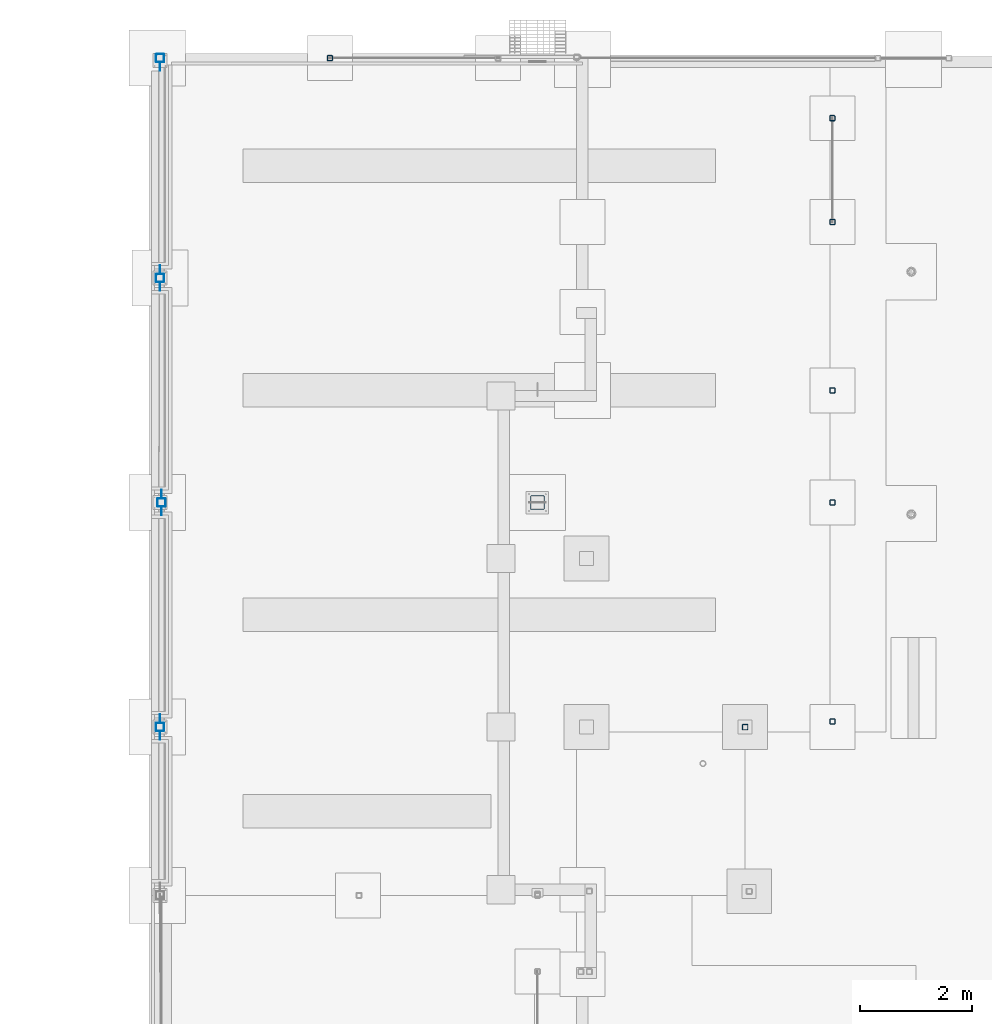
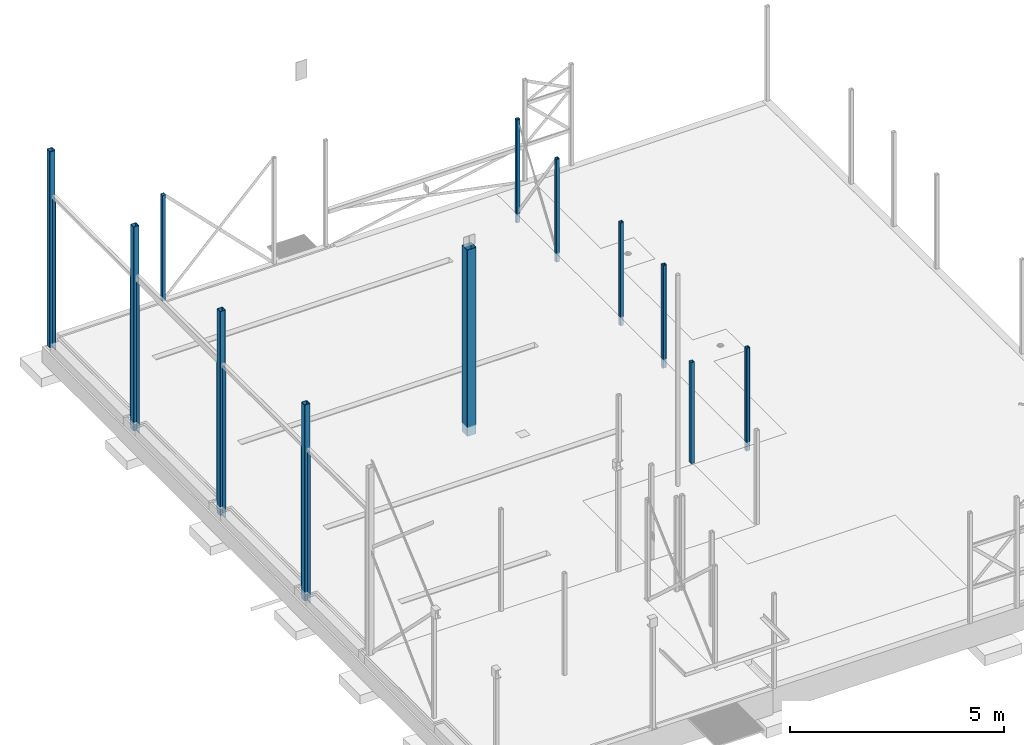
# One storey, part 4 of 18: 12 columns.
"""IFC2X3 building model written with IfcOpenShell, lengths in millimetres."""

from ifc_helpers import new_model, entity, si_unit, converted_unit, derived_unit, direction, frame, frame_2d, origin, origin_2d_with_axis, place, context, subcontext, project, spatial, polyline, circle_curve, parameter, trimmed, segment, composite_curve, rectangle, outline, extrude, source, transform, mapped, material, type_object, type_shapes, element, save


model = new_model("IFC2X3")

# Units and contexts
model_context = context("Model", 3, precision=0.01, world=origin(), true_north=direction((6.12303176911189e-17, 1.0)))
body_context = subcontext(model_context, "Body", "Model", "MODEL_VIEW")
ifc_project = project(units=[si_unit("LENGTHUNIT", "METRE", prefix="MILLI"), si_unit("AREAUNIT", "SQUARE_METRE"), si_unit("VOLUMEUNIT", "CUBIC_METRE"), converted_unit("PLANEANGLEUNIT", "DEGREE", entity("IfcRatioMeasure", 0.0174532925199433), si_unit("PLANEANGLEUNIT", "RADIAN"), dimensions=[0, 0, 0, 0, 0, 0, 0]), si_unit("MASSUNIT", "GRAM", prefix="KILO"), derived_unit("MASSDENSITYUNIT", [(si_unit("MASSUNIT", "GRAM", prefix="KILO"), 1), (si_unit("LENGTHUNIT", "METRE"), -3)]), si_unit("TIMEUNIT", "SECOND"), si_unit("FREQUENCYUNIT", "HERTZ"), si_unit("THERMODYNAMICTEMPERATUREUNIT", "DEGREE_CELSIUS"), derived_unit("THERMALTRANSMITTANCEUNIT", [(si_unit("MASSUNIT", "GRAM", prefix="KILO"), 1), (si_unit("THERMODYNAMICTEMPERATUREUNIT", "KELVIN"), -1), (si_unit("TIMEUNIT", "SECOND"), -3)]), derived_unit("VOLUMETRICFLOWRATEUNIT", [(si_unit("LENGTHUNIT", "METRE"), 3), (si_unit("TIMEUNIT", "SECOND"), -1)]), si_unit("ELECTRICCURRENTUNIT", "AMPERE"), si_unit("ELECTRICVOLTAGEUNIT", "VOLT"), si_unit("POWERUNIT", "WATT"), si_unit("FORCEUNIT", "NEWTON", prefix="KILO"), si_unit("ILLUMINANCEUNIT", "LUX"), si_unit("LUMINOUSFLUXUNIT", "LUMEN"), si_unit("LUMINOUSINTENSITYUNIT", "CANDELA"), derived_unit("USERDEFINED", [(si_unit("MASSUNIT", "GRAM", prefix="KILO"), -1), (si_unit("LENGTHUNIT", "METRE"), -2), (si_unit("TIMEUNIT", "SECOND"), 3), (si_unit("LUMINOUSFLUXUNIT", "LUMEN"), 1)]), derived_unit("LINEARVELOCITYUNIT", [(si_unit("LENGTHUNIT", "METRE"), 1), (si_unit("TIMEUNIT", "SECOND"), -1)]), si_unit("PRESSUREUNIT", "PASCAL"), derived_unit("USERDEFINED", [(si_unit("LENGTHUNIT", "METRE"), -2), (si_unit("MASSUNIT", "GRAM", prefix="KILO"), 1), (si_unit("TIMEUNIT", "SECOND"), -2)])], contexts=[model_context])

# Site, building, storey
site_placement = place(None, frame((0.0, 0.0, 101000.0)))
site = spatial("IfcSite", under=ifc_project, at=site_placement, Name="Default", CompositionType="ELEMENT")
building_placement = place(site_placement, origin())
building = spatial("IfcBuilding", under=site, at=building_placement, CompositionType="ELEMENT")
storey_placement = place(building_placement, origin())
storey = spatial("IfcBuildingStorey", under=building, at=storey_placement, Name="01", CompositionType="ELEMENT", Elevation=8.9295595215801e-10)

# Columns
ifc_material = material(Name="S355")
column_type_1 = type_object("IfcColumnType", Name="HUP 100x100x6.3", PredefinedType="COLUMN", material=ifc_material)
shared_shape_1 = source(origin(), body_context, "Body", "SweptSolid", [
    extrude(outline(composite_curve([segment(polyline([(-37.4000000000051, -50.0), (37.4000000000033, -50.0)]), True, "CONTINUOUS"), segment(trimmed(circle_curve(frame_2d((37.4000000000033, -37.3999999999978), x_axis=(-1.0, 0.0)), 12.6000000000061), [parameter(90.0000000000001)], [parameter(180.0)], True, "PARAMETER"), True, "CONTINUOUS"), segment(polyline([(50.0, -37.4000000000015), (50.0, 37.3999999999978)]), True, "CONTINUOUS"), segment(trimmed(circle_curve(frame_2d((37.4000000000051, 37.3999999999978), x_axis=(-1.0, 0.0)), 12.6000000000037), [parameter(180.0)], [parameter(270.0)], True, "PARAMETER"), True, "CONTINUOUS"), segment(polyline([(37.4000000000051, 50.0), (-37.4000000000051, 50.0)]), True, "CONTINUOUS"), segment(trimmed(circle_curve(frame_2d((-37.4000000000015, 37.4000000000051), x_axis=(-1.0, 0.0)), 12.6000000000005), [parameter(270.0)], [parameter(360.0)], True, "PARAMETER"), True, "CONTINUOUS"), segment(polyline([(-50.0, 37.3999999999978), (-50.0, -37.4000000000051)]), True, "CONTINUOUS"), segment(trimmed(circle_curve(frame_2d((-37.4000000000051, -37.4000000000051), x_axis=(-1.0, 0.0)), 12.5999999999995), [parameter(360.0)], [parameter(89.9999999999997)], True, "PARAMETER"), True, "CONTINUOUS")], self_intersect=False), holes=[composite_curve([segment(trimmed(circle_curve(frame_2d((-37.4000000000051, -37.4000000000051), x_axis=(-1.0, 0.0)), 6.2999999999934), [parameter(0.0)], [parameter(90.0)], True, "PARAMETER"), False, "CONTINUOUS"), segment(polyline([(-43.6999999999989, -37.4000000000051), (-43.6999999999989, 37.4000000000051)]), True, "CONTINUOUS"), segment(trimmed(circle_curve(frame_2d((-37.3999999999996, 37.4000000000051), x_axis=(-1.0, 0.0)), 6.29999999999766), [parameter(270.0)], [parameter(360.0)], True, "PARAMETER"), False, "CONTINUOUS"), segment(polyline([(-37.3999999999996, 43.6999999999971), (37.3999999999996, 43.6999999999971)]), True, "CONTINUOUS"), segment(trimmed(circle_curve(frame_2d((37.3999999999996, 37.3999999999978), x_axis=(-1.0, 0.0)), 6.30000000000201), [parameter(180.0)], [parameter(270.0)], True, "PARAMETER"), False, "CONTINUOUS"), segment(polyline([(43.7000000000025, 37.3999999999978), (43.7000000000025, -37.4000000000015)]), True, "CONTINUOUS"), segment(trimmed(circle_curve(frame_2d((37.4000000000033, -37.3999999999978), x_axis=(-1.0, 0.0)), 6.30000000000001), [parameter(90.0000000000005)], [parameter(180.0)], True, "PARAMETER"), False, "CONTINUOUS"), segment(polyline([(37.4000000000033, -43.7000000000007), (-37.4000000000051, -43.7000000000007)]), True, "CONTINUOUS")], self_intersect=False)]), frame((14186.2644969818, 32415.9328266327, 0.0), z_axis=(0.0, 0.0, 1.0), x_axis=(-1.0, 0.0, 0.0)), (0.0, 0.0, 1.0), 2884.99999999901),
])
type_shapes(column_type_1, [shared_shape_1])
column_1_placement = place(storey_placement, origin())
element("IfcColumn", 1, at=column_1_placement, inside=storey, type_object=column_type_1, material=ifc_material, Name="Søyle HUP:HUP 100x100x6.3", ObjectType="HUP 100x100x6.3", context=body_context, shape_type="MappedRepresentation", body=[
    mapped(shared_shape_1, transform((0.0, 0.0, 0.0), scale=1.0)),
])
column_type_2 = type_object("IfcColumnType", Name="HUP 150x150x6 (+1x150x10)", PredefinedType="COLUMN", material=ifc_material)
shared_shape_2 = source(origin(), body_context, "Body", "SweptSolid", [
    extrude(rectangle(XDim=6.00000000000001, YDim=150.0, at=origin_2d_with_axis()), frame((-141.282160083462, 0.0, -250.0), z_axis=(0.0, 0.0, 1.0), x_axis=(0.0, -1.0, 0.0)), (0.0, 0.0, 1.0), 4254.0),
    extrude(outline(composite_curve([segment(polyline([(-59.0, -75.0), (59.0, -75.0)]), True, "CONTINUOUS"), segment(trimmed(circle_curve(frame_2d((59.0, -59.0), x_axis=(-1.0, 0.0)), 16.0000000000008), [parameter(90.0000000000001)], [parameter(180.0)], True, "PARAMETER"), True, "CONTINUOUS"), segment(polyline([(75.0, -59.0), (75.0, 59.0)]), True, "CONTINUOUS"), segment(trimmed(circle_curve(frame_2d((59.0, 59.0), x_axis=(-1.0, 0.0)), 16.0000000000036), [parameter(180.0)], [parameter(270.0)], True, "PARAMETER"), True, "CONTINUOUS"), segment(polyline([(59.0, 75.0), (-59.0, 75.0)]), True, "CONTINUOUS"), segment(trimmed(circle_curve(frame_2d((-59.0, 59.0), x_axis=(-1.0, 0.0)), 16.0000000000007), [parameter(270.0)], [parameter(360.0)], True, "PARAMETER"), True, "CONTINUOUS"), segment(polyline([(-75.0, 59.0), (-75.0, -59.0)]), True, "CONTINUOUS"), segment(trimmed(circle_curve(frame_2d((-59.0, -59.0), x_axis=(-1.0, 0.0)), 15.9999999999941), [parameter(360.0)], [parameter(89.9999999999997)], True, "PARAMETER"), True, "CONTINUOUS")], self_intersect=False), holes=[composite_curve([segment(trimmed(circle_curve(frame_2d((-55.5128640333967, -55.5128640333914), x_axis=(-1.0, 0.0)), 11.4871359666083), [parameter(0.0)], [parameter(90.0)], True, "PARAMETER"), False, "CONTINUOUS"), segment(polyline([(-67.0, -55.5128640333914), (-67.0, 55.5128640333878)]), True, "CONTINUOUS"), segment(trimmed(circle_curve(frame_2d((-55.5128640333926, 55.5128640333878), x_axis=(-1.0, 0.0)), 11.4871359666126), [parameter(270.0)], [parameter(360.0)], True, "PARAMETER"), False, "CONTINUOUS"), segment(polyline([(-55.5128640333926, 67.0), (62.4871359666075, 67.0)]), True, "CONTINUOUS"), segment(trimmed(circle_curve(frame_2d((62.4871359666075, 62.4871359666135), x_axis=(-1.0, 0.0)), 4.51286403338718), [parameter(180.0)], [parameter(270.0)], True, "PARAMETER"), False, "CONTINUOUS"), segment(polyline([(67.0, 62.4871359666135), (67.0, -62.4871359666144)]), True, "CONTINUOUS"), segment(trimmed(circle_curve(frame_2d((62.4871359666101, -62.4871359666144), x_axis=(-1.0, 0.0)), 4.51286403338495), [parameter(90.0000000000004)], [parameter(180.0)], True, "PARAMETER"), False, "CONTINUOUS"), segment(polyline([(62.4871359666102, -67.0), (-55.5128640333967, -67.0)]), True, "CONTINUOUS")], self_intersect=False)]), frame((8.71783991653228, 0.0, -250.0), z_axis=(0.0, 0.0, 1.0), x_axis=(-1.0, 0.0, 0.0)), (0.0, 0.0, 1.0), 5599.99999999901),
])
type_shapes(column_type_2, [shared_shape_2])
column_2_placement = place(storey_placement, frame((3761.26449698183, 44329.2329130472, 0.0), z_axis=(0.0, 0.0, 1.0), x_axis=(0.0, 1.0, 0.0)))
element("IfcColumn", 2, at=column_2_placement, inside=storey, type_object=column_type_2, material=ifc_material, Name="Søyle HUP_1ving:HUP 150x150x6 (+1x150x10)", ObjectType="HUP 150x150x6 (+1x150x10)", context=body_context, shape_type="MappedRepresentation", body=[
    mapped(shared_shape_2, transform((0.0, 0.0, 0.0), scale=1.0)),
])
column_type_3 = type_object("IfcColumnType", Name="HUP 100x100x10", PredefinedType="COLUMN", material=ifc_material)
shared_shape_3 = source(origin(), body_context, "Body", "SweptSolid", [
    extrude(outline(composite_curve([segment(polyline([(-30.0, -50.0), (30.0, -50.0)]), True, "CONTINUOUS"), segment(trimmed(circle_curve(frame_2d((30.0, -30.0), x_axis=(-1.0, 0.0)), 20.0000000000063), [parameter(90.0000000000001)], [parameter(180.0)], True, "PARAMETER"), True, "CONTINUOUS"), segment(polyline([(50.0, -30.0), (50.0, 30.0)]), True, "CONTINUOUS"), segment(trimmed(circle_curve(frame_2d((30.0, 30.0), x_axis=(-1.0, 0.0)), 20.0000000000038), [parameter(180.0)], [parameter(270.0)], True, "PARAMETER"), True, "CONTINUOUS"), segment(polyline([(30.0, 50.0), (-30.0, 50.0)]), True, "CONTINUOUS"), segment(trimmed(circle_curve(frame_2d((-30.0, 30.0), x_axis=(-1.0, 0.0)), 20.0000000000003), [parameter(270.0)], [parameter(360.0)], True, "PARAMETER"), True, "CONTINUOUS"), segment(polyline([(-50.0, 30.0), (-50.0, -30.0)]), True, "CONTINUOUS"), segment(trimmed(circle_curve(frame_2d((-30.0, -30.0), x_axis=(-1.0, 0.0)), 19.9999999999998), [parameter(360.0)], [parameter(89.9999999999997)], True, "PARAMETER"), True, "CONTINUOUS")], self_intersect=False), holes=[composite_curve([segment(trimmed(circle_curve(frame_2d((-30.0, -30.0), x_axis=(-1.0, 0.0)), 9.99999999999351), [parameter(0.0)], [parameter(90.0)], True, "PARAMETER"), False, "CONTINUOUS"), segment(polyline([(-40.0, -30.0), (-40.0, 30.0)]), True, "CONTINUOUS"), segment(trimmed(circle_curve(frame_2d((-30.0, 30.0), x_axis=(-1.0, 0.0)), 9.99999999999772), [parameter(270.0)], [parameter(0.0)], True, "PARAMETER"), False, "CONTINUOUS"), segment(polyline([(-30.0, 40.0), (30.0, 40.0)]), True, "CONTINUOUS"), segment(trimmed(circle_curve(frame_2d((30.0, 30.0), x_axis=(-1.0, 0.0)), 10.000000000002), [parameter(180.0)], [parameter(270.0)], True, "PARAMETER"), False, "CONTINUOUS"), segment(polyline([(40.0, 30.0), (40.0, -30.0)]), True, "CONTINUOUS"), segment(trimmed(circle_curve(frame_2d((30.0, -30.0), x_axis=(-1.0, 0.0)), 10.0), [parameter(90.0000000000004)], [parameter(180.0)], True, "PARAMETER"), False, "CONTINUOUS"), segment(polyline([(30.0, -40.0), (-30.0, -40.0)]), True, "CONTINUOUS")], self_intersect=False)]), frame((6786.26449698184, 44337.9507529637, 0.0), z_axis=(0.0, 0.0, 1.0), x_axis=(-1.0, 0.0, 0.0)), (0.0, 0.0, 1.0), 3019.99999999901),
])
type_shapes(column_type_3, [shared_shape_3])
column_3_placement = place(storey_placement, origin())
element("IfcColumn", 3, at=column_3_placement, inside=storey, type_object=column_type_3, material=ifc_material, Name="Søyle HUP:HUP 100x100x10", ObjectType="HUP 100x100x10", context=body_context, shape_type="MappedRepresentation", body=[
    mapped(shared_shape_3, transform((0.0, 0.0, 0.0), scale=1.0)),
])
column_type_4 = type_object("IfcColumnType", Name="HUP 250x250", PredefinedType="COLUMN", material=ifc_material)
shared_shape_4 = source(origin(), body_context, "Body", "SweptSolid", [
    extrude(outline(composite_curve([segment(polyline([(-105.0, -125.0), (105.0, -125.0)]), True, "CONTINUOUS"), segment(trimmed(circle_curve(frame_2d((105.0, -105.0), x_axis=(-1.0, 0.0)), 20.0000000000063), [parameter(90.0000000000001)], [parameter(180.0)], True, "PARAMETER"), True, "CONTINUOUS"), segment(polyline([(125.0, -105.0), (125.0, 105.0)]), True, "CONTINUOUS"), segment(trimmed(circle_curve(frame_2d((105.0, 105.0), x_axis=(-1.0, 0.0)), 20.0000000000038), [parameter(180.0)], [parameter(270.0)], True, "PARAMETER"), True, "CONTINUOUS"), segment(polyline([(105.0, 125.0), (-105.0, 125.0)]), True, "CONTINUOUS"), segment(trimmed(circle_curve(frame_2d((-105.0, 105.0), x_axis=(-1.0, 0.0)), 20.0000000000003), [parameter(269.999999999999)], [parameter(360.0)], True, "PARAMETER"), True, "CONTINUOUS"), segment(polyline([(-125.0, 105.0), (-125.0, -105.0)]), True, "CONTINUOUS"), segment(trimmed(circle_curve(frame_2d((-105.0, -105.0), x_axis=(-1.0, 0.0)), 19.9999999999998), [parameter(360.0)], [parameter(89.9999999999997)], True, "PARAMETER"), True, "CONTINUOUS")], self_intersect=False), holes=[composite_curve([segment(trimmed(circle_curve(frame_2d((-105.0, -105.0), x_axis=(-1.0, 0.0)), 9.99999999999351), [parameter(0.0)], [parameter(90.0000000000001)], True, "PARAMETER"), False, "CONTINUOUS"), segment(polyline([(-115.0, -105.0), (-115.0, 105.0)]), True, "CONTINUOUS"), segment(trimmed(circle_curve(frame_2d((-105.0, 105.0), x_axis=(-1.0, 0.0)), 9.99999999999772), [parameter(270.0)], [parameter(0.0)], True, "PARAMETER"), False, "CONTINUOUS"), segment(polyline([(-105.0, 115.0), (105.0, 115.0)]), True, "CONTINUOUS"), segment(trimmed(circle_curve(frame_2d((105.0, 105.0), x_axis=(-1.0, 0.0)), 10.000000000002), [parameter(180.0)], [parameter(270.0)], True, "PARAMETER"), False, "CONTINUOUS"), segment(polyline([(115.0, 105.0), (115.0, -105.0)]), True, "CONTINUOUS"), segment(trimmed(circle_curve(frame_2d((105.0, -105.0), x_axis=(-1.0, 0.0)), 10.0), [parameter(90.0000000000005)], [parameter(180.0)], True, "PARAMETER"), False, "CONTINUOUS"), segment(polyline([(105.0, -115.0), (-105.0, -115.0)]), True, "CONTINUOUS")], self_intersect=False)]), frame((10486.2644969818, 36417.9507529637, -280.0), z_axis=(0.0, 0.0, 1.0), x_axis=(-1.0, 0.0, 0.0)), (0.0, 0.0, 1.0), 5319.99999999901),
])
type_shapes(column_type_4, [shared_shape_4])
column_4_placement = place(storey_placement, origin())
element("IfcColumn", 4, at=column_4_placement, inside=storey, type_object=column_type_4, material=ifc_material, Name="Søyle HUP:HUP 250x250", ObjectType="HUP 250x250", context=body_context, shape_type="MappedRepresentation", body=[
    mapped(shared_shape_4, transform((0.0, 0.0, 0.0), scale=1.0)),
])
column_type_5 = type_object("IfcColumnType", Name="HUP 150x150x6 (+2x150x10)", PredefinedType="COLUMN", material=ifc_material)
shared_shape_5 = source(origin(), body_context, "Body", "SweptSolid", [
    extrude(outline(composite_curve([segment(polyline([(-59.0, -75.0), (59.0, -75.0)]), True, "CONTINUOUS"), segment(trimmed(circle_curve(frame_2d((59.0, -59.0), x_axis=(-1.0, 0.0)), 16.0000000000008), [parameter(90.0000000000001)], [parameter(180.0)], True, "PARAMETER"), True, "CONTINUOUS"), segment(polyline([(75.0, -59.0), (75.0, 59.0)]), True, "CONTINUOUS"), segment(trimmed(circle_curve(frame_2d((59.0, 59.0), x_axis=(-1.0, 0.0)), 16.0000000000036), [parameter(180.0)], [parameter(270.0)], True, "PARAMETER"), True, "CONTINUOUS"), segment(polyline([(59.0, 75.0), (-59.0, 75.0)]), True, "CONTINUOUS"), segment(trimmed(circle_curve(frame_2d((-59.0, 59.0), x_axis=(-1.0, 0.0)), 16.0000000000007), [parameter(270.0)], [parameter(360.0)], True, "PARAMETER"), True, "CONTINUOUS"), segment(polyline([(-75.0, 59.0), (-75.0, -59.0)]), True, "CONTINUOUS"), segment(trimmed(circle_curve(frame_2d((-59.0, -59.0), x_axis=(-1.0, 0.0)), 15.9999999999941), [parameter(360.0)], [parameter(89.9999999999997)], True, "PARAMETER"), True, "CONTINUOUS")], self_intersect=False), holes=[composite_curve([segment(trimmed(circle_curve(frame_2d((-55.5128640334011, -55.5128640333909), x_axis=(-1.0, 0.0)), 11.4871359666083), [parameter(0.0)], [parameter(90.0)], True, "PARAMETER"), False, "CONTINUOUS"), segment(polyline([(-67.0, -55.5128640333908), (-67.0, 55.512864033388)]), True, "CONTINUOUS"), segment(trimmed(circle_curve(frame_2d((-55.5128640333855, 55.5128640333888), x_axis=(-1.0, 0.0)), 11.4871359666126), [parameter(270.0)], [parameter(360.0)], True, "PARAMETER"), False, "CONTINUOUS"), segment(polyline([(-55.5128640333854, 67.0), (62.4871359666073, 67.0)]), True, "CONTINUOUS"), segment(trimmed(circle_curve(frame_2d((62.4871359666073, 62.4871359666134), x_axis=(-1.0, 0.0)), 4.51286403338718), [parameter(180.0)], [parameter(270.0)], True, "PARAMETER"), False, "CONTINUOUS"), segment(polyline([(67.0, 62.4871359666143), (67.0, -62.4871359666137)]), True, "CONTINUOUS"), segment(trimmed(circle_curve(frame_2d((62.4871359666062, -62.4871359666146), x_axis=(-1.0, 0.0)), 4.51286403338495), [parameter(90.0000000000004)], [parameter(180.0)], True, "PARAMETER"), False, "CONTINUOUS"), segment(polyline([(62.4871359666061, -67.0), (-55.5128640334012, -67.0)]), True, "CONTINUOUS")], self_intersect=False)]), frame((3761.26449698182, 40417.9507529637, -250.0), z_axis=(0.0, 0.0, 1.0), x_axis=(0.0, -1.0, 0.0)), (0.0, 0.0, 1.0), 5829.99999999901),
    extrude(rectangle(XDim=6.00000000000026, YDim=150.000000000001, at=origin_2d_with_axis()), frame((3761.26449698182, 40267.9507529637, -250.0)), (0.0, 0.0, 1.0), 4254.0),
    extrude(rectangle(XDim=150.000000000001, YDim=6.00000000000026, at=frame_2d((0.0, -5.41344746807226e-13), x_axis=(1.0, 0.0))), frame((3761.26449698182, 40567.9507529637, -250.0), z_axis=(0.0, 0.0, 1.0), x_axis=(0.0, -1.0, 0.0)), (0.0, 0.0, 1.0), 4254.0),
])
type_shapes(column_type_5, [shared_shape_5])
column_5_placement = place(storey_placement, origin())
element("IfcColumn", 5, at=column_5_placement, inside=storey, type_object=column_type_5, material=ifc_material, Name="Søyle HUP_ving:HUP 150x150x6 (+2x150x10)", ObjectType="HUP 150x150x6 (+2x150x10)", context=body_context, shape_type="MappedRepresentation", body=[
    mapped(shared_shape_5, transform((0.0, 0.0, 0.0), scale=1.0)),
])
column_type_6 = type_object("IfcColumnType", Name="HUP 150x150x6 (+2x150x10)", PredefinedType="COLUMN", material=ifc_material)
shared_shape_6 = source(origin(), body_context, "Body", "SweptSolid", [
    extrude(rectangle(XDim=6.0, YDim=150.0, at=origin_2d_with_axis()), frame((-141.282160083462, 0.0, -250.0), z_axis=(0.0, 0.0, 1.0), x_axis=(0.0, -1.0, 0.0)), (0.0, 0.0, 1.0), 4254.0),
    extrude(rectangle(XDim=150.0, YDim=6.0, at=frame_2d((1.4210854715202e-14, 0.0), x_axis=(1.0, 0.0))), frame((158.717839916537, 0.0, -250.0), z_axis=(0.0, 0.0, 1.0), x_axis=(-1.0, 0.0, 0.0)), (0.0, 0.0, 1.0), 4254.0),
    extrude(outline(composite_curve([segment(polyline([(-59.0, -75.0), (59.0, -75.0)]), True, "CONTINUOUS"), segment(trimmed(circle_curve(frame_2d((59.0, -59.0), x_axis=(-1.0, 0.0)), 16.0000000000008), [parameter(90.0000000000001)], [parameter(180.0)], True, "PARAMETER"), True, "CONTINUOUS"), segment(polyline([(75.0, -59.0), (75.0, 59.0)]), True, "CONTINUOUS"), segment(trimmed(circle_curve(frame_2d((59.0, 59.0), x_axis=(-1.0, 0.0)), 16.0000000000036), [parameter(180.0)], [parameter(270.0)], True, "PARAMETER"), True, "CONTINUOUS"), segment(polyline([(59.0, 75.0), (-59.0, 75.0)]), True, "CONTINUOUS"), segment(trimmed(circle_curve(frame_2d((-59.0, 59.0), x_axis=(-1.0, 0.0)), 16.0000000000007), [parameter(270.0)], [parameter(360.0)], True, "PARAMETER"), True, "CONTINUOUS"), segment(polyline([(-75.0, 59.0), (-75.0, -59.0)]), True, "CONTINUOUS"), segment(trimmed(circle_curve(frame_2d((-59.0, -59.0), x_axis=(-1.0, 0.0)), 15.9999999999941), [parameter(360.0)], [parameter(89.9999999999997)], True, "PARAMETER"), True, "CONTINUOUS")], self_intersect=False), holes=[composite_curve([segment(trimmed(circle_curve(frame_2d((-55.5128640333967, -55.5128640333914), x_axis=(-1.0, 0.0)), 11.4871359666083), [parameter(0.0)], [parameter(90.0)], True, "PARAMETER"), False, "CONTINUOUS"), segment(polyline([(-67.0, -55.5128640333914), (-67.0, 55.5128640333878)]), True, "CONTINUOUS"), segment(trimmed(circle_curve(frame_2d((-55.5128640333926, 55.5128640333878), x_axis=(-1.0, 0.0)), 11.4871359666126), [parameter(270.0)], [parameter(360.0)], True, "PARAMETER"), False, "CONTINUOUS"), segment(polyline([(-55.5128640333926, 67.0), (62.4871359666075, 67.0)]), True, "CONTINUOUS"), segment(trimmed(circle_curve(frame_2d((62.4871359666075, 62.4871359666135), x_axis=(-1.0, 0.0)), 4.51286403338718), [parameter(180.0)], [parameter(270.0)], True, "PARAMETER"), False, "CONTINUOUS"), segment(polyline([(67.0, 62.4871359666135), (67.0, -62.4871359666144)]), True, "CONTINUOUS"), segment(trimmed(circle_curve(frame_2d((62.4871359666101, -62.4871359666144), x_axis=(-1.0, 0.0)), 4.51286403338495), [parameter(90.0000000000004)], [parameter(180.0)], True, "PARAMETER"), False, "CONTINUOUS"), segment(polyline([(62.4871359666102, -67.0), (-55.5128640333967, -67.0)]), True, "CONTINUOUS")], self_intersect=False)]), frame((8.71783991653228, 0.0, -250.0), z_axis=(0.0, 0.0, 1.0), x_axis=(-1.0, 0.0, 0.0)), (0.0, 0.0, 1.0), 5599.99999999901),
])
type_shapes(column_type_6, [shared_shape_6])
column_6_placement = place(storey_placement, frame((3761.26449698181, 32426.6685928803, 0.0), z_axis=(0.0, 0.0, 1.0), x_axis=(0.0, -1.0, 0.0)))
element("IfcColumn", 6, at=column_6_placement, inside=storey, type_object=column_type_6, material=ifc_material, Name="Søyle HUP_ving:HUP 150x150x6 (+2x150x10)", ObjectType="HUP 150x150x6 (+2x150x10)", context=body_context, shape_type="MappedRepresentation", body=[
    mapped(shared_shape_6, transform((0.0, 0.0, 0.0), scale=1.0)),
])
column_type_7 = type_object("IfcColumnType", Name="HUP 150x150x6 (+2x150x10)", PredefinedType="COLUMN", material=ifc_material)
shared_shape_7 = source(origin(), body_context, "Body", "SweptSolid", [
    extrude(outline(composite_curve([segment(polyline([(-59.0, -75.0), (59.0, -75.0)]), True, "CONTINUOUS"), segment(trimmed(circle_curve(frame_2d((59.0, -59.0), x_axis=(-1.0, 0.0)), 16.0000000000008), [parameter(90.0000000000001)], [parameter(180.0)], True, "PARAMETER"), True, "CONTINUOUS"), segment(polyline([(75.0, -59.0), (75.0, 59.0)]), True, "CONTINUOUS"), segment(trimmed(circle_curve(frame_2d((59.0, 59.0), x_axis=(-1.0, 0.0)), 16.0000000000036), [parameter(180.0)], [parameter(270.0)], True, "PARAMETER"), True, "CONTINUOUS"), segment(polyline([(59.0, 75.0), (-59.0, 75.0)]), True, "CONTINUOUS"), segment(trimmed(circle_curve(frame_2d((-59.0, 59.0), x_axis=(-1.0, 0.0)), 16.0000000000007), [parameter(270.0)], [parameter(360.0)], True, "PARAMETER"), True, "CONTINUOUS"), segment(polyline([(-75.0, 59.0), (-75.0, -59.0)]), True, "CONTINUOUS"), segment(trimmed(circle_curve(frame_2d((-59.0, -59.0), x_axis=(-1.0, 0.0)), 15.9999999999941), [parameter(360.0)], [parameter(89.9999999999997)], True, "PARAMETER"), True, "CONTINUOUS")], self_intersect=False), holes=[composite_curve([segment(trimmed(circle_curve(frame_2d((-55.512864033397, -55.5128640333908), x_axis=(-1.0, 0.0)), 11.4871359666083), [parameter(0.0)], [parameter(90.0)], True, "PARAMETER"), False, "CONTINUOUS"), segment(polyline([(-67.0, -55.5128640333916), (-67.0, 55.5128640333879)]), True, "CONTINUOUS"), segment(trimmed(circle_curve(frame_2d((-55.5128640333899, 55.5128640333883), x_axis=(-1.0, 0.0)), 11.4871359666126), [parameter(270.0)], [parameter(360.0)], True, "PARAMETER"), False, "CONTINUOUS"), segment(polyline([(-55.5128640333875, 67.0), (62.4871359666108, 67.0)]), True, "CONTINUOUS"), segment(trimmed(circle_curve(frame_2d((62.4871359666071, 62.4871359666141), x_axis=(-1.0, 0.0)), 4.51286403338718), [parameter(180.0)], [parameter(270.0)], True, "PARAMETER"), False, "CONTINUOUS"), segment(polyline([(67.0, 62.487135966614), (67.0, -62.487135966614)]), True, "CONTINUOUS"), segment(trimmed(circle_curve(frame_2d((62.48713596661, -62.4871359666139), x_axis=(-1.0, 0.0)), 4.51286403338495), [parameter(90.0000000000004)], [parameter(180.0)], True, "PARAMETER"), False, "CONTINUOUS"), segment(polyline([(62.4871359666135, -67.0), (-55.512864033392, -67.0)]), True, "CONTINUOUS")], self_intersect=False)]), frame((3786.19071892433, 36417.9511067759, -250.0), z_axis=(0.0, 0.0, 1.0), x_axis=(-0.00147556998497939, -0.999998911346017, 0.0)), (0.0, 0.0, 1.0), 5829.99999999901),
    extrude(rectangle(XDim=6.00000000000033, YDim=150.000000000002, at=origin_2d_with_axis()), frame((3785.96938342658, 36267.951270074, -250.0), z_axis=(0.0, 0.0, 1.0), x_axis=(0.999998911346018, -0.00147556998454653, 0.0)), (0.0, 0.0, 1.0), 4254.0),
    extrude(rectangle(XDim=149.999999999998, YDim=5.99999999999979, at=frame_2d((2.16715534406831e-12, 2.73780997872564e-13), x_axis=(1.0, 0.0))), frame((3786.41205442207, 36567.9509434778, -250.0), z_axis=(0.0, 0.0, 1.0), x_axis=(-0.00147556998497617, -0.999998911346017, 0.0)), (0.0, 0.0, 1.0), 4254.0),
])
type_shapes(column_type_7, [shared_shape_7])
column_7_placement = place(storey_placement, origin())
element("IfcColumn", 7, at=column_7_placement, inside=storey, type_object=column_type_7, material=ifc_material, Name="Søyle HUP_ving:HUP 150x150x6 (+2x150x10)", ObjectType="HUP 150x150x6 (+2x150x10)", context=body_context, shape_type="MappedRepresentation", body=[
    mapped(shared_shape_7, transform((0.0, 0.0, 0.0), scale=1.0)),
])
column_type_8 = type_object("IfcColumnType", Name="HUP 100x100x10", PredefinedType="COLUMN", material=ifc_material)
shared_shape_8 = source(origin(), body_context, "Body", "SweptSolid", [
    extrude(outline(composite_curve([segment(polyline([(-30.0, -50.0), (30.0, -50.0)]), True, "CONTINUOUS"), segment(trimmed(circle_curve(frame_2d((30.0, -30.0), x_axis=(-1.0, 0.0)), 20.0000000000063), [parameter(90.0000000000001)], [parameter(180.0)], True, "PARAMETER"), True, "CONTINUOUS"), segment(polyline([(50.0, -30.0), (50.0, 30.0)]), True, "CONTINUOUS"), segment(trimmed(circle_curve(frame_2d((30.0, 30.0), x_axis=(-1.0, 0.0)), 20.0000000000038), [parameter(180.0)], [parameter(270.0)], True, "PARAMETER"), True, "CONTINUOUS"), segment(polyline([(30.0, 50.0), (-30.0, 50.0)]), True, "CONTINUOUS"), segment(trimmed(circle_curve(frame_2d((-30.0, 30.0), x_axis=(-1.0, 0.0)), 20.0000000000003), [parameter(270.0)], [parameter(360.0)], True, "PARAMETER"), True, "CONTINUOUS"), segment(polyline([(-50.0, 30.0), (-50.0, -30.0)]), True, "CONTINUOUS"), segment(trimmed(circle_curve(frame_2d((-30.0, -30.0), x_axis=(-1.0, 0.0)), 19.9999999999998), [parameter(360.0)], [parameter(89.9999999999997)], True, "PARAMETER"), True, "CONTINUOUS")], self_intersect=False), holes=[composite_curve([segment(trimmed(circle_curve(frame_2d((-30.0, -30.0), x_axis=(-1.0, 0.0)), 9.99999999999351), [parameter(0.0)], [parameter(90.0)], True, "PARAMETER"), False, "CONTINUOUS"), segment(polyline([(-40.0, -30.0), (-40.0, 30.0)]), True, "CONTINUOUS"), segment(trimmed(circle_curve(frame_2d((-30.0, 30.0), x_axis=(-1.0, 0.0)), 9.99999999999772), [parameter(270.0)], [parameter(0.0)], True, "PARAMETER"), False, "CONTINUOUS"), segment(polyline([(-30.0, 40.0), (30.0, 40.0)]), True, "CONTINUOUS"), segment(trimmed(circle_curve(frame_2d((30.0, 30.0), x_axis=(-1.0, 0.0)), 10.000000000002), [parameter(180.0)], [parameter(270.0)], True, "PARAMETER"), False, "CONTINUOUS"), segment(polyline([(40.0, 30.0), (40.0, -30.0)]), True, "CONTINUOUS"), segment(trimmed(circle_curve(frame_2d((30.0, -30.0), x_axis=(-1.0, 0.0)), 10.0), [parameter(90.0000000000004)], [parameter(180.0)], True, "PARAMETER"), False, "CONTINUOUS"), segment(polyline([(30.0, -40.0), (-30.0, -40.0)]), True, "CONTINUOUS")], self_intersect=False)]), frame((0.0, 0.0, -250.0), z_axis=(0.0, 0.0, 1.0), x_axis=(-1.0, 0.0, 0.0)), (0.0, 0.0, 1.0), 2934.99999999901),
])
type_shapes(column_type_8, [shared_shape_8])
for number, where, name in (
    (8, (15742.4253486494, 32515.9328266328, 0.0), "Søyle HUP:HUP 100x100x10"),
    (9, (15742.4253486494, 36417.9507529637, 0.0), "Søyle HUP:HUP 100x100x10"),
    (10, (15742.4253486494, 38417.9507529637, 0.0), "Søyle HUP:HUP 100x100x10"),
    (11, (15742.4253486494, 41417.9507529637, 0.0), "Søyle HUP:HUP 100x100x10"),
    (12, (15742.4253486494, 43267.9507529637, 0.0), "Søyle HUP:HUP 100x100x10"),
):
    element("IfcColumn", number, at=place(storey_placement, frame(where)), inside=storey, type_object=column_type_8, material=ifc_material, Name=name, ObjectType="HUP 100x100x10", context=body_context, shape_type="MappedRepresentation", body=[
        mapped(shared_shape_8, transform((0.0, 0.0, 0.0), scale=1.0)),
    ])

save(model, "model.ifc")
